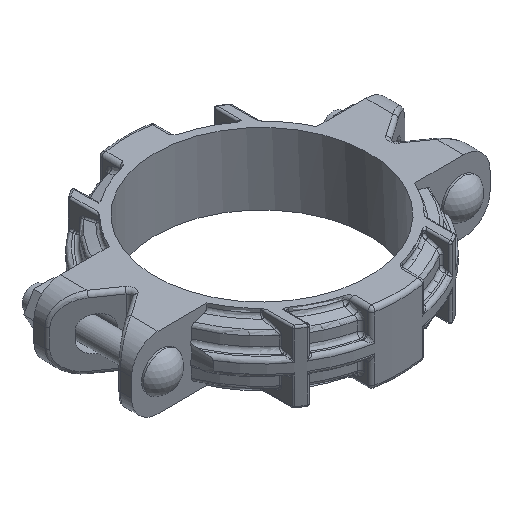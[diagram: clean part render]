
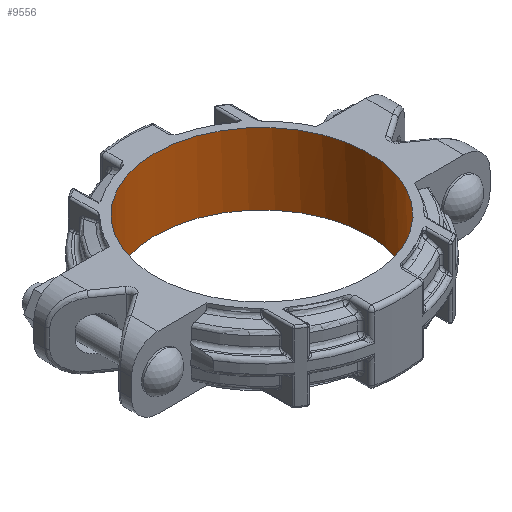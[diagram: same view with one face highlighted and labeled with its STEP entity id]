
A CAD part, isometric view. The second image highlights one B-rep face of the part: STEP entity #9556.
In plain terms, the highlighted cylindrical face has radius 90.487 mm (diameter 180.975 mm), a full revolution.
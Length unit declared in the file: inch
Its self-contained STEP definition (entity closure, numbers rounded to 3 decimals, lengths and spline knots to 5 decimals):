
#953=CYLINDRICAL_SURFACE('',#10559,3.5625);
#1540=FACE_OUTER_BOUND('',#2127,.T.);
#2127=EDGE_LOOP('',(#8201,#8202,#8203,#8204,#8205,#8206));
#2522=LINE('',#22905,#2905);
#2905=VECTOR('',#12919,3.5625);
#2975=CIRCLE('',#9703,3.5625);
#2976=CIRCLE('',#9704,3.5625);
#3008=CIRCLE('',#9763,3.5625);
#3009=CIRCLE('',#9764,3.5625);
#3605=VERTEX_POINT('',#13574);
#3606=VERTEX_POINT('',#13575);
#3680=VERTEX_POINT('',#13995);
#3681=VERTEX_POINT('',#13996);
#4437=EDGE_CURVE('',#3605,#3606,#2975,.T.);
#4438=EDGE_CURVE('',#3606,#3605,#2976,.T.);
#4532=EDGE_CURVE('',#3680,#3681,#3008,.T.);
#4533=EDGE_CURVE('',#3681,#3680,#3009,.T.);
#5608=EDGE_CURVE('',#3681,#3606,#2522,.T.);
#8201=ORIENTED_EDGE('',*,*,#4532,.T.);
#8202=ORIENTED_EDGE('',*,*,#5608,.T.);
#8203=ORIENTED_EDGE('',*,*,#4437,.F.);
#8204=ORIENTED_EDGE('',*,*,#4438,.F.);
#8205=ORIENTED_EDGE('',*,*,#5608,.F.);
#8206=ORIENTED_EDGE('',*,*,#4533,.T.);
#9556=ADVANCED_FACE('',(#1540),#953,.F.);
#9703=AXIS2_PLACEMENT_3D('',#13576,#10917,#10918);
#9704=AXIS2_PLACEMENT_3D('',#13577,#10919,#10920);
#9763=AXIS2_PLACEMENT_3D('',#13997,#11075,#11076);
#9764=AXIS2_PLACEMENT_3D('',#13998,#11077,#11078);
#10559=AXIS2_PLACEMENT_3D('',#22904,#12917,#12918);
#10917=DIRECTION('center_axis',(0.,0.,-1.));
#10918=DIRECTION('ref_axis',(1.,0.,0.));
#10919=DIRECTION('center_axis',(0.,0.,-1.));
#10920=DIRECTION('ref_axis',(1.,0.,0.));
#11075=DIRECTION('center_axis',(0.,0.,-1.));
#11076=DIRECTION('ref_axis',(-1.,0.,0.));
#11077=DIRECTION('center_axis',(0.,0.,-1.));
#11078=DIRECTION('ref_axis',(-1.,0.,0.));
#12917=DIRECTION('center_axis',(0.,0.,-1.));
#12918=DIRECTION('ref_axis',(0.,-1.,0.));
#12919=DIRECTION('',(0.,0.,1.));
#13574=CARTESIAN_POINT('',(3.16773,-1.63,1.19));
#13575=CARTESIAN_POINT('',(0.,3.5625,1.19));
#13576=CARTESIAN_POINT('Origin',(0.,0.,1.19));
#13577=CARTESIAN_POINT('Origin',(0.,0.,1.19));
#13995=CARTESIAN_POINT('',(-3.5625,0.,-1.19));
#13996=CARTESIAN_POINT('',(0.,3.5625,-1.19));
#13997=CARTESIAN_POINT('Origin',(0.,0.,-1.19));
#13998=CARTESIAN_POINT('Origin',(0.,0.,-1.19));
#22904=CARTESIAN_POINT('Origin',(0.,0.,0.));
#22905=CARTESIAN_POINT('',(0.,3.5625,0.));
